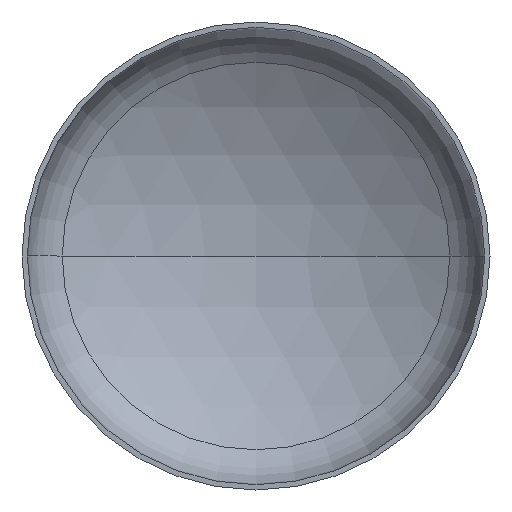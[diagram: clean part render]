
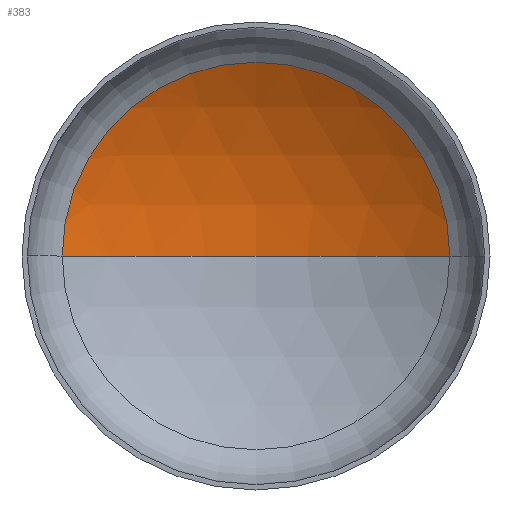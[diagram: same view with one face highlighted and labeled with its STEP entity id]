
A CAD part, front view. The second image highlights one B-rep face of the part: STEP entity #383.
In plain terms, the highlighted spherical face has radius 1760 mm.
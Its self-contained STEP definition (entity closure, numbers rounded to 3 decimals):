
#4 = VERTEX_POINT ( 'NONE', #253 ) ;
#5 = AXIS2_PLACEMENT_3D ( 'NONE', #239, #181, #257 ) ;
#8 = DIRECTION ( 'NONE',  ( 1., 0., 0. ) ) ;
#13 = DIRECTION ( 'NONE',  ( 0., -1., 0. ) ) ;
#15 = CARTESIAN_POINT ( 'NONE',  ( 0., 365.911, 0. ) ) ;
#16 = EDGE_LOOP ( 'NONE', ( #100, #122, #104 ) ) ;
#23 = AXIS2_PLACEMENT_3D ( 'NONE', #148, #210, #319 ) ;
#47 = CIRCLE ( 'NONE', #23, 1760. ) ;
#49 = VERTEX_POINT ( 'NONE', #222 ) ;
#72 = AXIS2_PLACEMENT_3D ( 'NONE', #184, #197, #198 ) ;
#74 = AXIS2_PLACEMENT_3D ( 'NONE', #15, #13, #8 ) ;
#100 = ORIENTED_EDGE ( 'NONE', *, *, #363, .F. ) ;
#104 = ORIENTED_EDGE ( 'NONE', *, *, #139, .T. ) ;
#122 = ORIENTED_EDGE ( 'NONE', *, *, #150, .T. ) ;
#139 = EDGE_CURVE ( 'NONE', #4, #152, #245, .T. ) ;
#148 = CARTESIAN_POINT ( 'NONE',  ( 0., -1139.979, 0. ) ) ;
#150 = EDGE_CURVE ( 'NONE', #49, #4, #347, .T. ) ;
#152 = VERTEX_POINT ( 'NONE', #192 ) ;
#181 = DIRECTION ( 'NONE',  ( 0., 0., -1. ) ) ;
#184 = CARTESIAN_POINT ( 'NONE',  ( 0., -1139.979, 0. ) ) ;
#192 = CARTESIAN_POINT ( 'NONE',  ( -910.986, 365.911, 0. ) ) ;
#197 = DIRECTION ( 'NONE',  ( 0., 0., -1. ) ) ;
#198 = DIRECTION ( 'NONE',  ( -1., 0., 0. ) ) ;
#210 = DIRECTION ( 'NONE',  ( 0., 0., 1. ) ) ;
#222 = CARTESIAN_POINT ( 'NONE',  ( 0., 620.021, 0. ) ) ;
#239 = CARTESIAN_POINT ( 'NONE',  ( 0., -1139.979, 0. ) ) ;
#245 = CIRCLE ( 'NONE', #74, 910.986 ) ;
#253 = CARTESIAN_POINT ( 'NONE',  ( 910.986, 365.911, 0. ) ) ;
#255 = SPHERICAL_SURFACE ( 'NONE', #5, 1760. ) ;
#257 = DIRECTION ( 'NONE',  ( -1., 0., 0. ) ) ;
#309 = FACE_OUTER_BOUND ( 'NONE', #16, .T. ) ;
#319 = DIRECTION ( 'NONE',  ( 1., 0., 0. ) ) ;
#347 = CIRCLE ( 'NONE', #72, 1760. ) ;
#363 = EDGE_CURVE ( 'NONE', #49, #152, #47, .T. ) ;
#383 = ADVANCED_FACE ( 'NONE', ( #309 ), #255, .F. ) ;
